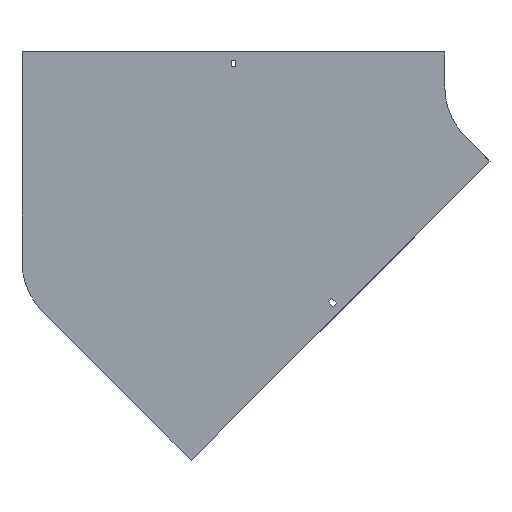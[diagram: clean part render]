
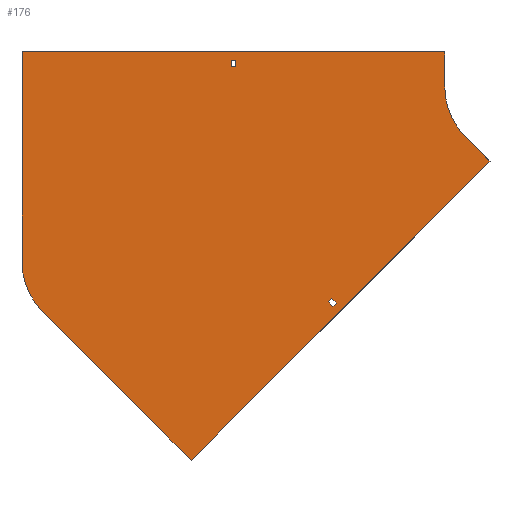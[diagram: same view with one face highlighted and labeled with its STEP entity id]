
A CAD part, front view. The second image highlights one B-rep face of the part: STEP entity #176.
In plain terms, the highlighted planar face has unit normal (0, -1, 0).
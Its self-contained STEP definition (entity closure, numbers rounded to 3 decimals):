
#9 = CARTESIAN_POINT ( 'NONE',  ( -704., 0., -250.185 ) ) ;
#22 = ORIENTED_EDGE ( 'NONE', *, *, #1423, .F. ) ;
#24 = LINE ( 'NONE', #630, #656 ) ;
#28 = DIRECTION ( 'NONE',  ( 0., 1., 0. ) ) ;
#43 = DIRECTION ( 'NONE',  ( -0.707, 0., 0.707 ) ) ;
#55 = DIRECTION ( 'NONE',  ( 0., 0., 1. ) ) ;
#68 = LINE ( 'NONE', #521, #1368 ) ;
#82 = VECTOR ( 'NONE', #484, 1000. ) ;
#91 = DIRECTION ( 'NONE',  ( 0., 0., -1. ) ) ;
#108 = DIRECTION ( 'NONE',  ( 0., 0., 1. ) ) ;
#130 = CARTESIAN_POINT ( 'NONE',  ( -100., 0., 0. ) ) ;
#135 = CARTESIAN_POINT ( 'NONE',  ( -674.711, 0., -320.896 ) ) ;
#156 = VECTOR ( 'NONE', #481, 1000. ) ;
#170 = EDGE_CURVE ( 'NONE', #1681, #1005, #256, .T. ) ;
#171 = CARTESIAN_POINT ( 'NONE',  ( -704., 0., 50. ) ) ;
#176 = ADVANCED_FACE ( 'NONE', ( #1292, #1632, #1918 ), #1927, .T. ) ;
#181 = CARTESIAN_POINT ( 'NONE',  ( -405.25, 0., 38. ) ) ;
#205 = EDGE_CURVE ( 'NONE', #1916, #820, #68, .T. ) ;
#251 = CARTESIAN_POINT ( 'NONE',  ( -405.25, 0., 29. ) ) ;
#256 = LINE ( 'NONE', #1322, #585 ) ;
#308 = EDGE_LOOP ( 'NONE', ( #1349, #1771, #995, #1108 ) ) ;
#340 = EDGE_CURVE ( 'NONE', #1662, #1879, #1586, .T. ) ;
#403 = EDGE_CURVE ( 'NONE', #744, #1523, #889, .T. ) ;
#448 = CARTESIAN_POINT ( 'NONE',  ( -100., 0., 50. ) ) ;
#455 = LINE ( 'NONE', #1049, #1840 ) ;
#463 = ORIENTED_EDGE ( 'NONE', *, *, #205, .F. ) ;
#476 = VECTOR ( 'NONE', #931, 1000. ) ;
#481 = DIRECTION ( 'NONE',  ( 1., 0., 0. ) ) ;
#484 = DIRECTION ( 'NONE',  ( 0.707, 0., -0.707 ) ) ;
#517 = VECTOR ( 'NONE', #43, 1000. ) ;
#521 = CARTESIAN_POINT ( 'NONE',  ( -259.685, 0., -313.425 ) ) ;
#534 = LINE ( 'NONE', #1446, #1869 ) ;
#552 = DIRECTION ( 'NONE',  ( 1., 0., 0. ) ) ;
#557 = VECTOR ( 'NONE', #566, 1000. ) ;
#558 = EDGE_CURVE ( 'NONE', #1556, #744, #24, .T. ) ;
#560 = ORIENTED_EDGE ( 'NONE', *, *, #1494, .F. ) ;
#566 = DIRECTION ( 'NONE',  ( -1., 0., 0. ) ) ;
#570 = DIRECTION ( 'NONE',  ( 0.707, 0., 0.707 ) ) ;
#582 = CARTESIAN_POINT ( 'NONE',  ( 0., 0., 0. ) ) ;
#585 = VECTOR ( 'NONE', #1312, 1000. ) ;
#609 = LINE ( 'NONE', #1208, #1244 ) ;
#630 = CARTESIAN_POINT ( 'NONE',  ( -398.75, 0., 29. ) ) ;
#656 = VECTOR ( 'NONE', #1219, 1000. ) ;
#699 = ORIENTED_EDGE ( 'NONE', *, *, #969, .F. ) ;
#719 = LINE ( 'NONE', #9, #1178 ) ;
#731 = VERTEX_POINT ( 'NONE', #1057 ) ;
#744 = VERTEX_POINT ( 'NONE', #1206 ) ;
#765 = EDGE_CURVE ( 'NONE', #1879, #731, #1678, .T. ) ;
#770 = VECTOR ( 'NONE', #552, 1000. ) ;
#791 = ORIENTED_EDGE ( 'NONE', *, *, #1761, .F. ) ;
#806 = LINE ( 'NONE', #1115, #770 ) ;
#820 = VERTEX_POINT ( 'NONE', #1439 ) ;
#850 = CARTESIAN_POINT ( 'NONE',  ( -259.685, 0., -313.425 ) ) ;
#852 = ORIENTED_EDGE ( 'NONE', *, *, #1289, .F. ) ;
#889 = LINE ( 'NONE', #1744, #557 ) ;
#926 = CARTESIAN_POINT ( 'NONE',  ( -70.711, 0., -70.711 ) ) ;
#931 = DIRECTION ( 'NONE',  ( 0.707, 0., -0.707 ) ) ;
#933 = VECTOR ( 'NONE', #1314, 1000. ) ;
#948 = CARTESIAN_POINT ( 'NONE',  ( -266.049, 0., -307.061 ) ) ;
#969 = EDGE_CURVE ( 'NONE', #1932, #1563, #609, .T. ) ;
#977 = CARTESIAN_POINT ( 'NONE',  ( -266.049, 0., -307.061 ) ) ;
#981 = ORIENTED_EDGE ( 'NONE', *, *, #340, .F. ) ;
#995 = ORIENTED_EDGE ( 'NONE', *, *, #558, .T. ) ;
#996 = AXIS2_PLACEMENT_3D ( 'NONE', #1079, #28, #55 ) ;
#1005 = VERTEX_POINT ( 'NONE', #135 ) ;
#1030 = CARTESIAN_POINT ( 'NONE',  ( -462.448, 0., -533.159 ) ) ;
#1049 = CARTESIAN_POINT ( 'NONE',  ( -405.25, 0., 29. ) ) ;
#1051 = DIRECTION ( 'NONE',  ( 0., 0., 1. ) ) ;
#1057 = CARTESIAN_POINT ( 'NONE',  ( -35.355, 0., -106.066 ) ) ;
#1079 = CARTESIAN_POINT ( 'NONE',  ( -604., 0., -250.185 ) ) ;
#1108 = ORIENTED_EDGE ( 'NONE', *, *, #403, .T. ) ;
#1115 = CARTESIAN_POINT ( 'NONE',  ( -405.25, 0., 38. ) ) ;
#1116 = VERTEX_POINT ( 'NONE', #1588 ) ;
#1159 = LINE ( 'NONE', #1756, #933 ) ;
#1178 = VECTOR ( 'NONE', #1051, 1000. ) ;
#1179 = DIRECTION ( 'NONE',  ( 0., 0., -1. ) ) ;
#1196 = ORIENTED_EDGE ( 'NONE', *, *, #1414, .F. ) ;
#1200 = DIRECTION ( 'NONE',  ( -0.707, 0., -0.707 ) ) ;
#1206 = CARTESIAN_POINT ( 'NONE',  ( -398.75, 0., 29. ) ) ;
#1208 = CARTESIAN_POINT ( 'NONE',  ( -266.049, 0., -307.061 ) ) ;
#1210 = CARTESIAN_POINT ( 'NONE',  ( -261.453, 0., -302.465 ) ) ;
#1219 = DIRECTION ( 'NONE',  ( 0., 0., -1. ) ) ;
#1220 = CARTESIAN_POINT ( 'NONE',  ( -704., 0., 50. ) ) ;
#1229 = ORIENTED_EDGE ( 'NONE', *, *, #170, .F. ) ;
#1240 = LINE ( 'NONE', #948, #476 ) ;
#1244 = VECTOR ( 'NONE', #1200, 1000. ) ;
#1249 = ORIENTED_EDGE ( 'NONE', *, *, #765, .F. ) ;
#1281 = DIRECTION ( 'NONE',  ( 0., -1., 0. ) ) ;
#1289 = EDGE_CURVE ( 'NONE', #1116, #1817, #719, .T. ) ;
#1292 = FACE_BOUND ( 'NONE', #308, .T. ) ;
#1308 = VERTEX_POINT ( 'NONE', #448 ) ;
#1312 = DIRECTION ( 'NONE',  ( -0.707, 0., 0.707 ) ) ;
#1314 = DIRECTION ( 'NONE',  ( 0., 0., -1. ) ) ;
#1322 = CARTESIAN_POINT ( 'NONE',  ( -462.448, 0., -533.159 ) ) ;
#1341 = EDGE_LOOP ( 'NONE', ( #463, #560, #699, #1798 ) ) ;
#1349 = ORIENTED_EDGE ( 'NONE', *, *, #1738, .T. ) ;
#1368 = VECTOR ( 'NONE', #570, 1000. ) ;
#1374 = LINE ( 'NONE', #171, #156 ) ;
#1376 = AXIS2_PLACEMENT_3D ( 'NONE', #1896, #1281, #91 ) ;
#1406 = DIRECTION ( 'NONE',  ( -0.707, 0., -0.707 ) ) ;
#1411 = VERTEX_POINT ( 'NONE', #181 ) ;
#1414 = EDGE_CURVE ( 'NONE', #1005, #1116, #1594, .T. ) ;
#1423 = EDGE_CURVE ( 'NONE', #1817, #1308, #1374, .T. ) ;
#1439 = CARTESIAN_POINT ( 'NONE',  ( -255.089, 0., -308.829 ) ) ;
#1446 = CARTESIAN_POINT ( 'NONE',  ( -35.355, 0., -106.066 ) ) ;
#1453 = DIRECTION ( 'NONE',  ( 0., -1., 0. ) ) ;
#1494 = EDGE_CURVE ( 'NONE', #1563, #1916, #1240, .T. ) ;
#1512 = ORIENTED_EDGE ( 'NONE', *, *, #1936, .F. ) ;
#1520 = LINE ( 'NONE', #1210, #517 ) ;
#1523 = VERTEX_POINT ( 'NONE', #251 ) ;
#1526 = CARTESIAN_POINT ( 'NONE',  ( -70.711, 0., -70.711 ) ) ;
#1556 = VERTEX_POINT ( 'NONE', #1893 ) ;
#1563 = VERTEX_POINT ( 'NONE', #977 ) ;
#1584 = AXIS2_PLACEMENT_3D ( 'NONE', #582, #1453, #1179 ) ;
#1586 = CIRCLE ( 'NONE', #1376, 100. ) ;
#1588 = CARTESIAN_POINT ( 'NONE',  ( -704., 0., -250.185 ) ) ;
#1591 = CARTESIAN_POINT ( 'NONE',  ( -261.453, 0., -302.465 ) ) ;
#1594 = CIRCLE ( 'NONE', #996, 100. ) ;
#1632 = FACE_OUTER_BOUND ( 'NONE', #1700, .T. ) ;
#1662 = VERTEX_POINT ( 'NONE', #130 ) ;
#1678 = LINE ( 'NONE', #1526, #82 ) ;
#1681 = VERTEX_POINT ( 'NONE', #1030 ) ;
#1700 = EDGE_LOOP ( 'NONE', ( #22, #852, #1196, #1229, #1512, #1249, #981, #791 ) ) ;
#1738 = EDGE_CURVE ( 'NONE', #1523, #1411, #455, .T. ) ;
#1744 = CARTESIAN_POINT ( 'NONE',  ( -405.25, 0., 29. ) ) ;
#1756 = CARTESIAN_POINT ( 'NONE',  ( -100., 0., 50. ) ) ;
#1761 = EDGE_CURVE ( 'NONE', #1308, #1662, #1159, .T. ) ;
#1771 = ORIENTED_EDGE ( 'NONE', *, *, #1923, .T. ) ;
#1798 = ORIENTED_EDGE ( 'NONE', *, *, #1850, .F. ) ;
#1817 = VERTEX_POINT ( 'NONE', #1220 ) ;
#1840 = VECTOR ( 'NONE', #108, 1000. ) ;
#1850 = EDGE_CURVE ( 'NONE', #820, #1932, #1520, .T. ) ;
#1869 = VECTOR ( 'NONE', #1406, 1000. ) ;
#1879 = VERTEX_POINT ( 'NONE', #926 ) ;
#1893 = CARTESIAN_POINT ( 'NONE',  ( -398.75, 0., 38. ) ) ;
#1896 = CARTESIAN_POINT ( 'NONE',  ( 0., 0., 0. ) ) ;
#1916 = VERTEX_POINT ( 'NONE', #850 ) ;
#1918 = FACE_BOUND ( 'NONE', #1341, .T. ) ;
#1923 = EDGE_CURVE ( 'NONE', #1411, #1556, #806, .T. ) ;
#1927 = PLANE ( 'NONE',  #1584 ) ;
#1932 = VERTEX_POINT ( 'NONE', #1591 ) ;
#1936 = EDGE_CURVE ( 'NONE', #731, #1681, #534, .T. ) ;
